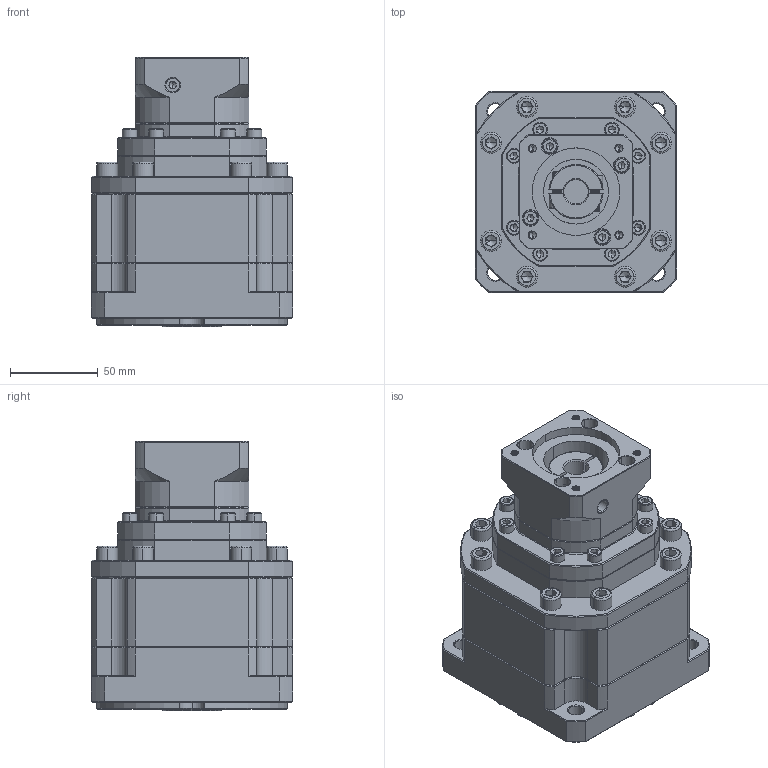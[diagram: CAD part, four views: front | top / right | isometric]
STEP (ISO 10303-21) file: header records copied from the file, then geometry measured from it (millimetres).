
FILE_DESCRIPTION (( 'STEP AP214' ), '1' );
FILE_NAME ('ZB115A-K25-L3-P2-14-50-70-M5.step', '2023-08-26T10:34:39', ( '' ), ( '' ), 'SwSTEP 2.0', 'SolidWorks 2016', '' );
FILE_SCHEMA (( 'AUTOMOTIVE_DESIGN' ));
Length unit declared in the file: millimetre
Products named in the file (1): ZB115A-K25-L3-P2-14-50-70-M5
Bounding box: 115 x 115 x 154 mm (x, y, z)
Volume: 1250092 mm3; surface area: 120230.7 mm2
Topology: 7 solids, 7 shells, 2504 faces, 6596 edges, 4206 vertices
Faces by surface type: plane 1299, bspline 434, cylinder 413, cone 336, torus 22
Entity records: 127585 total; most frequent: CARTESIAN_POINT 41503, ORIENTED_EDGE 13072, DIRECTION 10595, EDGE_CURVE 6536, LINE 4227, VECTOR 4227, VERTEX_POINT 4206, AXIS2_PLACEMENT_3D 3184
